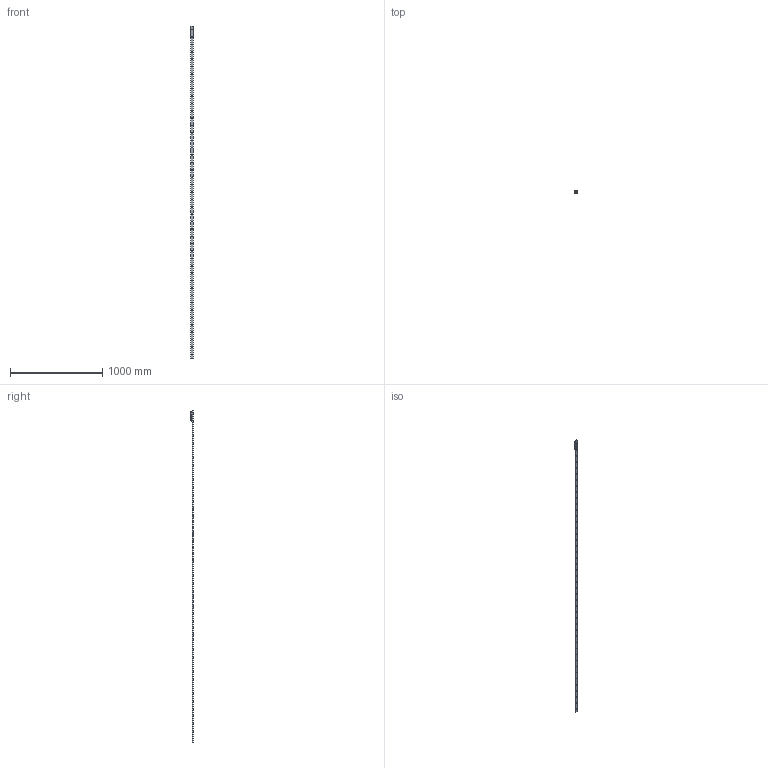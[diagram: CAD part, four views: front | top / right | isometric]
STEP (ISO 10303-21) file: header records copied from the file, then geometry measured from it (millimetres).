
FILE_DESCRIPTION( ( 'STEP AP214' ), '1' );
FILE_NAME( 'p:/temp/worker_22/temp/exporttempdir_796_365_d8WHK/format_1/TGV-03600_1_RV28G-3.stp', '2020-11-20T16:44:54', ( 'License CC BY-ND 4.0' ), ( 'CADENAS' ), ' ', 'PARTsolutions', ' ' );
FILE_SCHEMA( ( 'AUTOMOTIVE_DESIGN { 1 0 10303 214 1 1 1 1 }' ) );
Length unit declared in the file: millimetre
Products named in the file (6): TGV-03600/1/RV28G-3; _TGV28-3600-(3-1); _RV28G-3-slider; _RGNV28R; _RGAV28R; _WR28G-01
Assembly tree (7 placements, depth 2):
  TGV-03600/1/RV28G-3
    _TGV28-3600-(3-1)
    _RV28G-3-slider
    _RGNV28R  x2
    _RGAV28R
    _WR28G-01  x2
Bounding box: 28 x 24 x 3600 mm (x, y, z)
Volume: 556253.8 mm3; surface area: 358430.4 mm2
Topology: 7 solids, 7 shells, 1102 faces, 2870 edges, 1864 vertices
Faces by surface type: plane 657, cylinder 325, cone 85, bspline 26, torus 9
Full cylindrical faces by diameter (mm): 1.27 x4, 2 x2, 2.5 x6, 4 x4, 4.134 x4, 4.2 x3, 5 x3, 5.5 x3, 5.75 x45, 7 x5, 7.5 x1, 8 x6, 10.8 x3, 17 x3, 20.75 x6
Entity records: 27201 total; most frequent: CARTESIAN_POINT 4235, DIRECTION 3650, ORIENTED_EDGE 3264, EDGE_CURVE 1632, AXIS2_PLACEMENT_3D 1430, VERTEX_POINT 1164, EDGE_LOOP 1061, FACE_OUTER_BOUND 816
